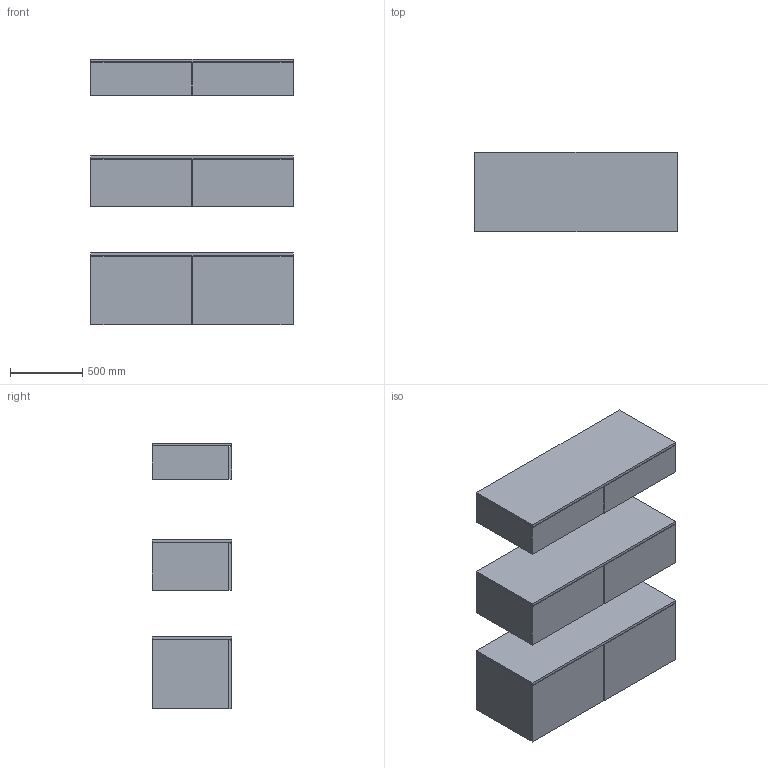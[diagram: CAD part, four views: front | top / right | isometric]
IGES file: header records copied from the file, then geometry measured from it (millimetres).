
Global section: file name: \\Archi-NAS\Comune\X GIOVANNI\MOBILI\BOXLINE\BOXLINE_2.igs; native system: Rhinoceros ( Feb 23 2021 ); preprocessor: Trout Lake IGES 012 Feb 23 2021; date: 230607.152500; units: millimetre
Bounding box: 1400 x 550 x 1840.43 mm (x, y, z)
Surface area: 25653736 mm2 (no closed solid volume)
Topology: 0 solids, 0 shells, 312 faces, 1260 edges, 1260 vertices
Faces by surface type: bspline 312
